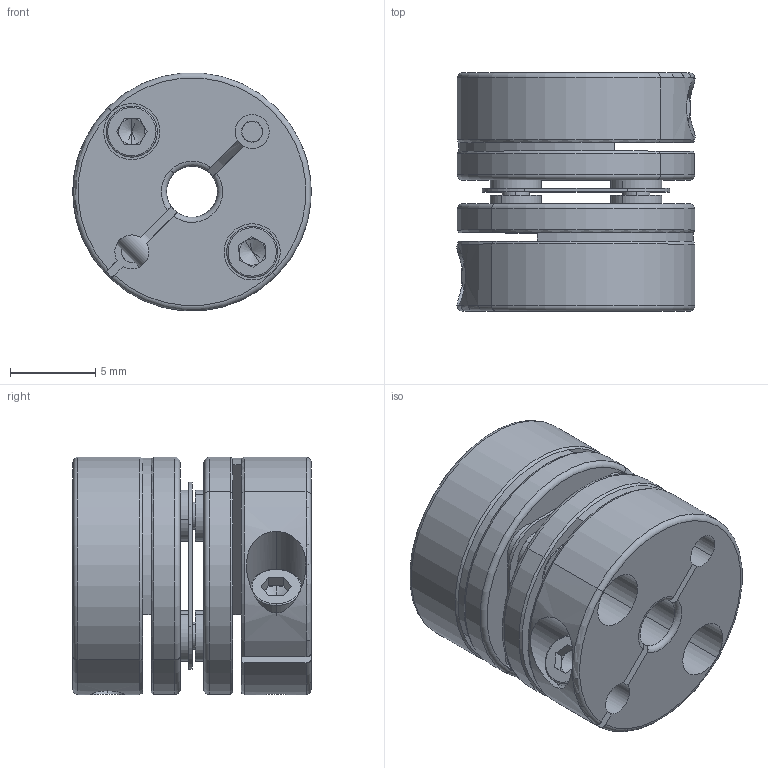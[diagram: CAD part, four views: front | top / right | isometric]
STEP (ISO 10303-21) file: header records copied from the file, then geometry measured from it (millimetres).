
FILE_DESCRIPTION (( 'STEP AP203' ), '1' );
FILE_NAME ('DXB-14X14-3-3.STEP', '2023-10-18T07:49:12', ( '' ), ( '' ), 'SwSTEP 2.0', 'SolidWorks 2020', '' );
FILE_SCHEMA (( 'CONFIG_CONTROL_DESIGN' ));
Length unit declared in the file: millimetre
Products named in the file (6): 14膜片组垫圈; 14臚え郪陔; socket head cap screw_iso_ISO 4762 M1.6 x 5 - 5C; socket head cap screw_iso_ISO 4762 M1.6 x 3 - 3C; DXB-14X14-3-3; 14臚え薊粣ん傷裔陔遴
Assembly tree (17 placements, depth 2):
  DXB-14X14-3-3
    14膜片组垫圈  x8
    14臚え郪陔
    14臚え薊粣ん傷裔陔遴  x2
    socket head cap screw_iso_ISO 4762 M1.6 x 3 - 3C  x4
    socket head cap screw_iso_ISO 4762 M1.6 x 5 - 5C  x2
Bounding box: 14 x 14 x 13.97 mm (x, y, z)
Volume: 1499.8 mm3; surface area: 2629.7 mm2
Topology: 17 solids, 17 shells, 364 faces, 862 edges, 530 vertices
Faces by surface type: cylinder 146, plane 140, torus 44, cone 34
Entity records: 5572 total; most frequent: CARTESIAN_POINT 932, DIRECTION 854, ORIENTED_EDGE 720, EDGE_CURVE 360, AXIS2_PLACEMENT_3D 348, VERTEX_POINT 226, CIRCLE 181, EDGE_LOOP 180
